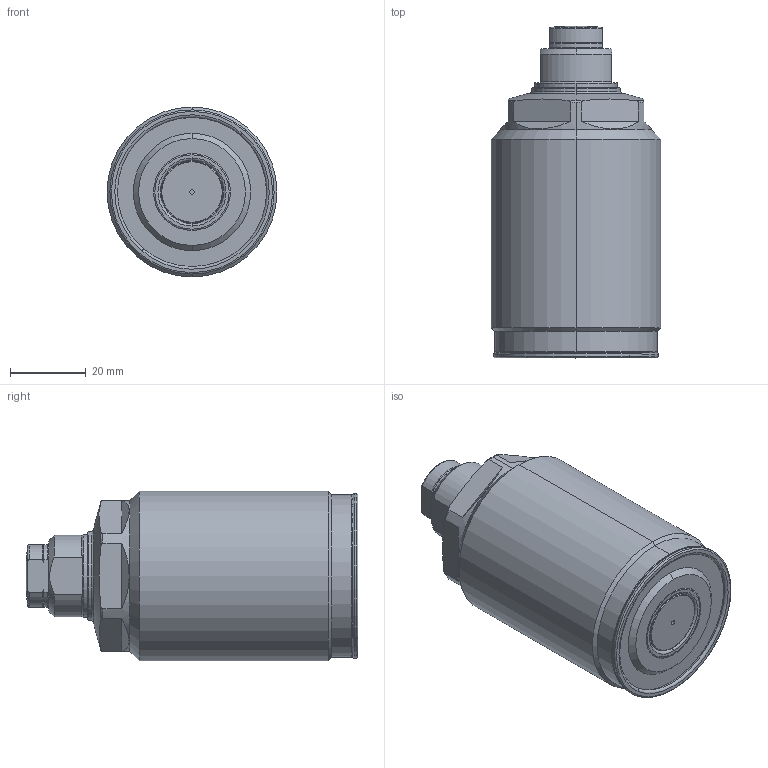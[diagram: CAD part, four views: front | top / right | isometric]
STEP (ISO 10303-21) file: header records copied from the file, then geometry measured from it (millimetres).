
FILE_DESCRIPTION(/* description */ (''),/* implementation_level */ '2;1');
FILE_NAME(/* name */ 'GSC06.stp',/* time_stamp */ '2025-01-05T12:58:58+08:00',/* author */ (''),/* organization */ (''),/* preprocessor_version */ 'ST-DEVELOPER v16.7',/* originating_system */ 'SIEMENS PLM Software NX 12.0',/* authorisation */ '');
FILE_SCHEMA (('AUTOMOTIVE_DESIGN { 1 0 10303 214 3 1 1 1 }'));
Length unit declared in the file: millimetre
Products named in the file (8): TNC0403_ContactBolt_M12; AS012; GSC06-05; GSC06-04; GSC06-02; GSC06-01; GSC06-03; TNC1603-x_step
Assembly tree (7 placements, depth 3):
  TNC1603-x_step
    GSC06-01
    GSC06-02
    GSC06-03
      AS012
      TNC0403_ContactBolt_M12
    GSC06-04
    GSC06-05
Bounding box: 45 x 87.9 x 45 mm (x, y, z)
Volume: 108585.2 mm3; surface area: 18609.2 mm2
Topology: 6 solids, 6 shells, 157 faces, 350 edges, 213 vertices
Faces by surface type: torus 47, cylinder 45, plane 37, cone 26, sphere 2
Entity records: 4911 total; most frequent: CARTESIAN_POINT 1146, DIRECTION 843, ORIENTED_EDGE 700, AXIS2_PLACEMENT_3D 374, EDGE_CURVE 350, VERTEX_POINT 213, CIRCLE 209, EDGE_LOOP 173
